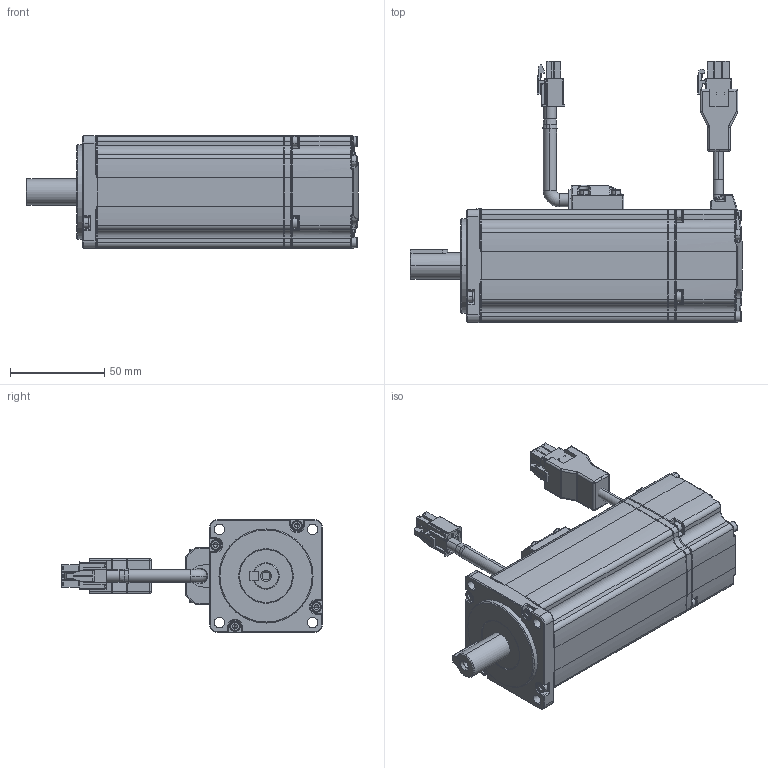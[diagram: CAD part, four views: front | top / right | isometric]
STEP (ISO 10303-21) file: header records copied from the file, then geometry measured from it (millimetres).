
FILE_DESCRIPTION (( 'STEP AP203' ), '1' );
FILE_NAME ('EM3A04A-100-A3-S（永磁交流伺服电机）.STEP', '2018-12-18T03:01:47', ( '' ), ( '' ), 'SwSTEP 2.0', 'SolidWorks 2016', '' );
FILE_SCHEMA (( 'CONFIG_CONTROL_DESIGN' ));
Products named in the file (1): EM3A04A-100-A3-S（永磁交流伺服电机）
Bounding box: 176.5 x 138.7 x 60 mm (x, y, z)
Surface area: 57737.2 mm2 (no closed solid volume)
Topology: 0 solids, 65 shells, 1317 faces, 3859 edges, 2505 vertices
Faces by surface type: plane 508, cylinder 407, torus 141, cone 139, bspline 79, sphere 43
Entity records: 44497 total; most frequent: CARTESIAN_POINT 10329, DIRECTION 7366, ORIENTED_EDGE 6432, EDGE_CURVE 3806, AXIS2_PLACEMENT_3D 2622, VERTEX_POINT 2505, LINE 2122, VECTOR 2122
